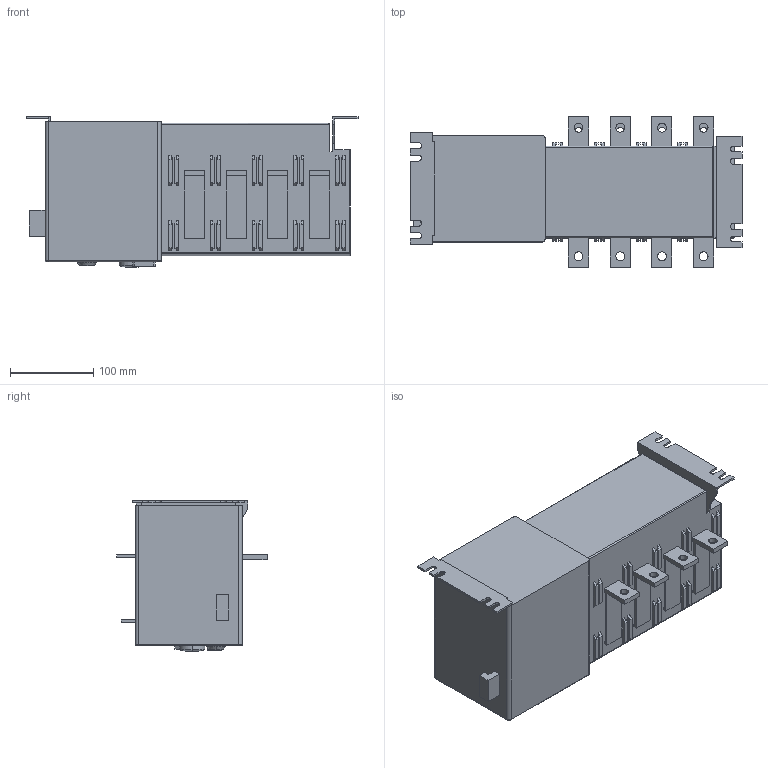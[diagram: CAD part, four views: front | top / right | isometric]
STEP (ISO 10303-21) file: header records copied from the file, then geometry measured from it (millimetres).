
FILE_DESCRIPTION((''),'2;1');
FILE_NAME('NH40-2504','2020-06-10T',('sft'),(''),'CREO PARAMETRIC BY PTC INC, 2014350','CREO PARAMETRIC BY PTC INC, 2014350','');
FILE_SCHEMA(('CONFIG_CONTROL_DESIGN'));
Length unit declared in the file: millimetre
Products named in the file (1): NH40-2504
Bounding box: 398 x 180 x 180.67 mm (x, y, z)
Volume: 6963838.3 mm3; surface area: 324637.9 mm2
Topology: 1 solids, 1 shells, 519 faces, 1356 edges, 894 vertices
Faces by surface type: plane 443, cylinder 61, torus 9, sphere 4, cone 2
Entity records: 15803 total; most frequent: CARTESIAN_POINT 2783, ORIENTED_EDGE 2712, DIRECTION 2533, EDGE_CURVE 1356, VECTOR 1213, LINE 1213, VERTEX_POINT 894, AXIS2_PLACEMENT_3D 660
